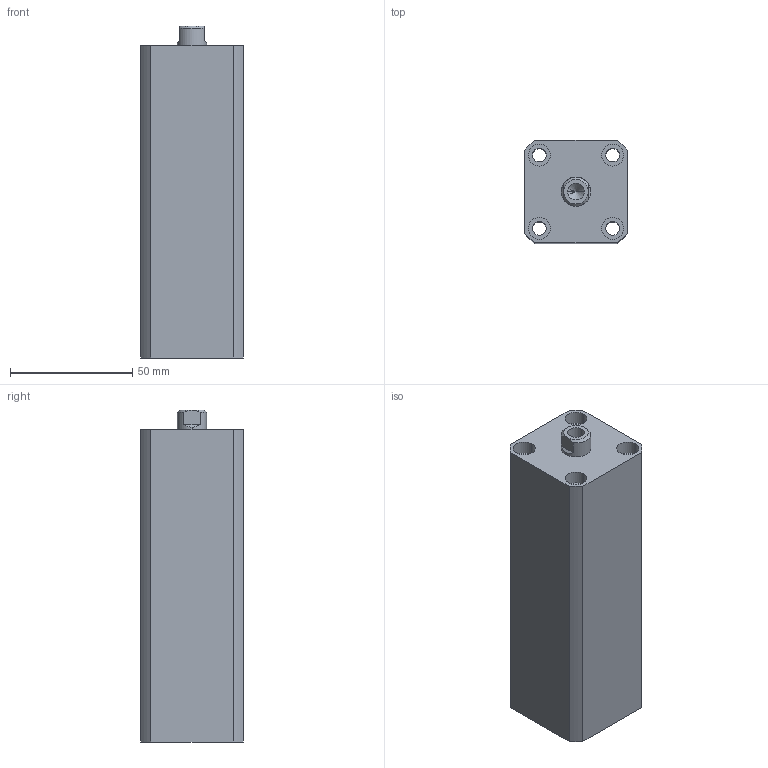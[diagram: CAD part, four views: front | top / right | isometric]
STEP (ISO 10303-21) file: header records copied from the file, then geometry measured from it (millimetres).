
FILE_DESCRIPTION (( 'STEP AP203' ), '1' );
FILE_NAME ('HTB-SDMB20-85N.STEP', '2019-10-09T00:10:10', ( '微软用户' ), ( '微软中国' ), 'SwSTEP 2.0', 'SolidWorks 2012', '' );
FILE_SCHEMA (( 'CONFIG_CONTROL_DESIGN' ));
Length unit declared in the file: millimetre
Products named in the file (3): HTB-SDMB20-85N; HTB-SDMB20-85N活塞杆; HTB-SDMB20-85掛极
Assembly tree (2 placements, depth 2):
  HTB-SDMB20-85N
    HTB-SDMB20-85掛极
    HTB-SDMB20-85N活塞杆
Bounding box: 42 x 42 x 136 mm (x, y, z)
Volume: 190537.9 mm3; surface area: 46774.7 mm2
Topology: 2 solids, 2 shells, 136 faces, 326 edges, 213 vertices
Faces by surface type: plane 64, cylinder 46, bspline 16, torus 6, cone 4
Entity records: 5023 total; most frequent: CARTESIAN_POINT 1570, ORIENTED_EDGE 648, DIRECTION 640, EDGE_CURVE 324, AXIS2_PLACEMENT_3D 231, VERTEX_POINT 213, LINE 178, VECTOR 178
